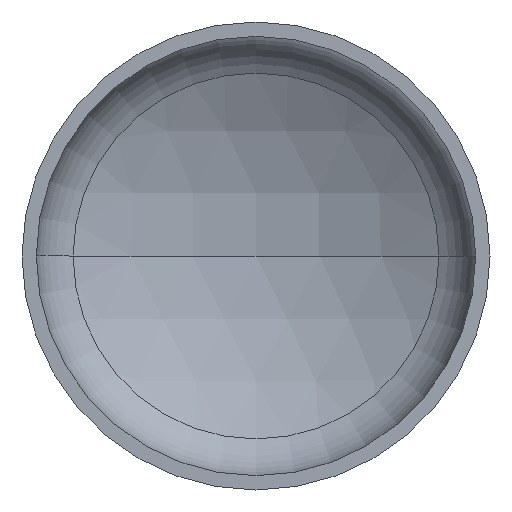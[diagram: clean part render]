
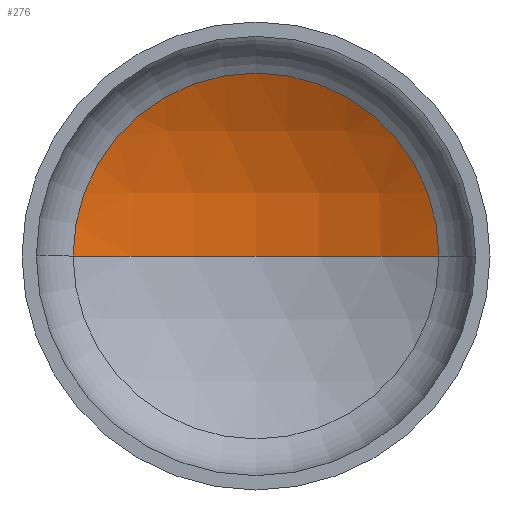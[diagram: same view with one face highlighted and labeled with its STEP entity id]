
A CAD part, front view. The second image highlights one B-rep face of the part: STEP entity #276.
In plain terms, the highlighted spherical face has radius 1200 mm.
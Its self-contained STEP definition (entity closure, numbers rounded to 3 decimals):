
#5 = AXIS2_PLACEMENT_3D ( 'NONE', #326, #188, #356 ) ;
#16 = EDGE_LOOP ( 'NONE', ( #124, #107, #51 ) ) ;
#19 = AXIS2_PLACEMENT_3D ( 'NONE', #346, #164, #172 ) ;
#29 = VERTEX_POINT ( 'NONE', #230 ) ;
#31 = VERTEX_POINT ( 'NONE', #362 ) ;
#51 = ORIENTED_EDGE ( 'NONE', *, *, #328, .T. ) ;
#55 = AXIS2_PLACEMENT_3D ( 'NONE', #183, #151, #204 ) ;
#107 = ORIENTED_EDGE ( 'NONE', *, *, #368, .T. ) ;
#117 = SPHERICAL_SURFACE ( 'NONE', #55, 1200. ) ;
#122 = VERTEX_POINT ( 'NONE', #212 ) ;
#123 = DIRECTION ( 'NONE',  ( -1., 0., 0. ) ) ;
#124 = ORIENTED_EDGE ( 'NONE', *, *, #367, .F. ) ;
#151 = DIRECTION ( 'NONE',  ( 0., 0., -1. ) ) ;
#164 = DIRECTION ( 'NONE',  ( 0., -1., 0. ) ) ;
#172 = DIRECTION ( 'NONE',  ( 1., 0., 0. ) ) ;
#183 = CARTESIAN_POINT ( 'NONE',  ( 0., -706.3, 0. ) ) ;
#188 = DIRECTION ( 'NONE',  ( 0., 0., 1. ) ) ;
#204 = DIRECTION ( 'NONE',  ( -1., 0., 0. ) ) ;
#206 = FACE_OUTER_BOUND ( 'NONE', #16, .T. ) ;
#212 = CARTESIAN_POINT ( 'NONE',  ( 0., 493.7, 0. ) ) ;
#230 = CARTESIAN_POINT ( 'NONE',  ( 586.392, 340.669, 0. ) ) ;
#273 = DIRECTION ( 'NONE',  ( 0., 0., -1. ) ) ;
#276 = ADVANCED_FACE ( 'NONE', ( #206 ), #117, .F. ) ;
#283 = CIRCLE ( 'NONE', #354, 1200. ) ;
#293 = CIRCLE ( 'NONE', #19, 586.392 ) ;
#326 = CARTESIAN_POINT ( 'NONE',  ( 0., -706.3, 0. ) ) ;
#328 = EDGE_CURVE ( 'NONE', #29, #31, #293, .T. ) ;
#346 = CARTESIAN_POINT ( 'NONE',  ( 0., 340.669, 0. ) ) ;
#354 = AXIS2_PLACEMENT_3D ( 'NONE', #410, #273, #123 ) ;
#356 = DIRECTION ( 'NONE',  ( 1., 0., 0. ) ) ;
#362 = CARTESIAN_POINT ( 'NONE',  ( -586.392, 340.669, 0. ) ) ;
#367 = EDGE_CURVE ( 'NONE', #122, #31, #397, .T. ) ;
#368 = EDGE_CURVE ( 'NONE', #122, #29, #283, .T. ) ;
#397 = CIRCLE ( 'NONE', #5, 1200. ) ;
#410 = CARTESIAN_POINT ( 'NONE',  ( 0., -706.3, 0. ) ) ;
